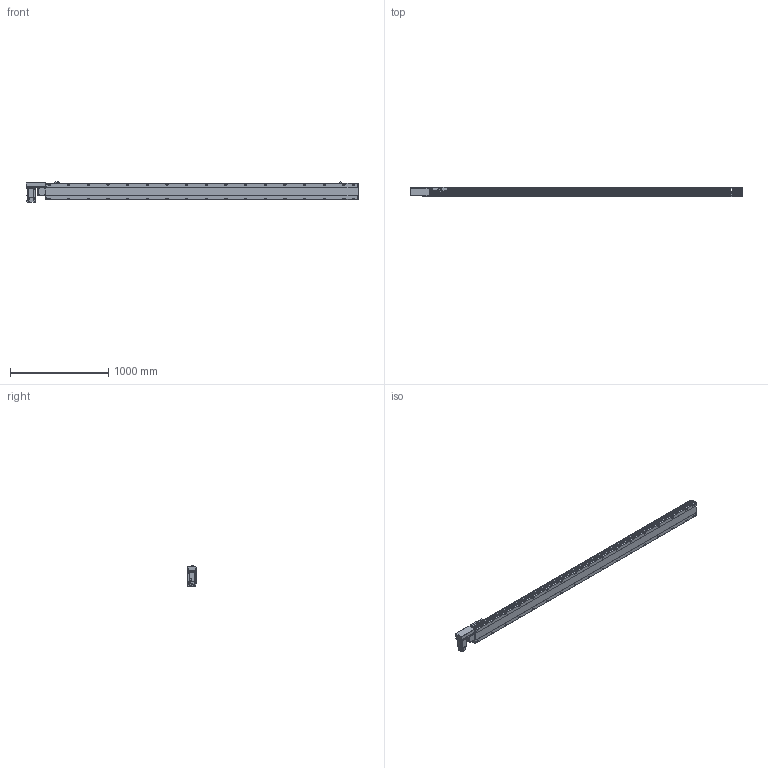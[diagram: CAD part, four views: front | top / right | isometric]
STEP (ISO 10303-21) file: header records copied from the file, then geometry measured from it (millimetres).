
FILE_DESCRIPTION(/* description */ ('STEP AP214'),/* implementation_level */ '2;1');
FILE_NAME(/* name */ 'PBS170-P40-S2900-R-T75-C1-N(0)',/* time_stamp */ '2022-06-07T09:33:16+02:00',/* author */ ('License CC BY-ND 4.0'),/* organization */ ('CADENAS'),/* preprocessor_version */ 'ST-DEVELOPER v18.102',/* originating_system */ 'PARTsolutions',/* authorisation */ ' ');
FILE_SCHEMA (('AUTOMOTIVE_DESIGN {1 0 10303 214 3 1 1}'));
Length unit declared in the file: millimetre
Products named in the file (7): PBS170-P40-S2900-R-T75-C1-N(0); PBS170_sensor; PBS170_plant; PBS170_sliser; T75-p1; PBS170T-R_motors; PBS170-S2900()_body
Assembly tree (8 placements, depth 2):
  PBS170-P40-S2900-R-T75-C1-N(0)
    PBS170_sensor  x3
    PBS170_plant
    PBS170_sliser
    T75-p1
    PBS170T-R_motors
    PBS170-S2900()_body
Bounding box: 3378 x 97 x 205.3 mm (x, y, z)
Volume: 24527411.8 mm3; surface area: 3073959.6 mm2
Topology: 8 solids, 8 shells, 1226 faces, 3235 edges, 2108 vertices
Faces by surface type: plane 741, cylinder 411, cone 64, sphere 8, torus 2
Full cylindrical faces by diameter (mm): 3.242 x4, 4 x2, 4.4 x4, 4.5 x6, 4.917 x4, 6 x9, 6.647 x42, 7 x2, 7.5 x4, 8 x8, 8.5 x34, 10 x4, 10.5 x34, 11 x2, 30 x2, 40 x1, 70 x1
Entity records: 35240 total; most frequent: CARTESIAN_POINT 6721, DIRECTION 5930, ORIENTED_EDGE 5568, EDGE_CURVE 2784, AXIS2_PLACEMENT_3D 2107, VERTEX_POINT 1946, LINE 1716, VECTOR 1716
